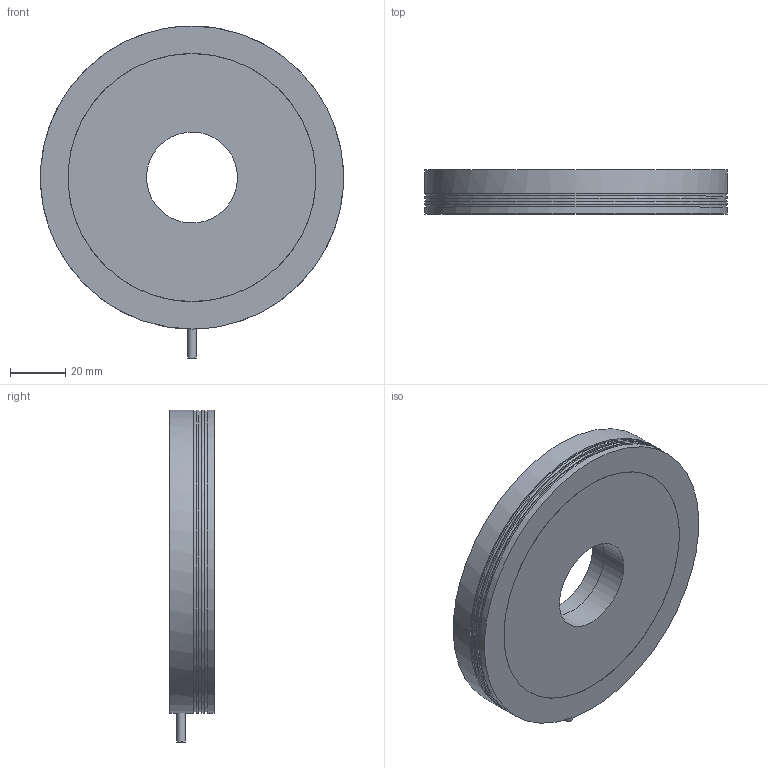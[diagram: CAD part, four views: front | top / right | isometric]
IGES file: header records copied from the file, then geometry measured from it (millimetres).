
Global section: file name: 153-00735_LR 100 xID-24-KFL5; native system: Autodesk Inventor 2018; preprocessor: unknown; author: ss; date: 20180726.094103; units: millimetre
Bounding box: 109.86 x 16 x 120.5 mm (x, y, z)
Volume: 137838.6 mm3; surface area: 45022.6 mm2
Topology: 3 solids, 3 shells, 45 faces, 112 edges, 86 vertices
Faces by surface type: bspline 45
